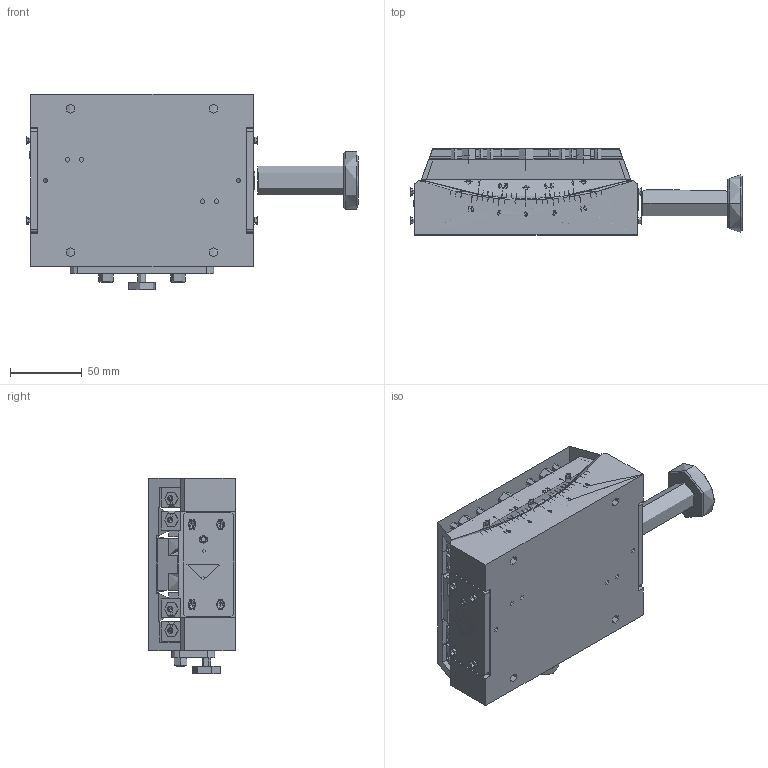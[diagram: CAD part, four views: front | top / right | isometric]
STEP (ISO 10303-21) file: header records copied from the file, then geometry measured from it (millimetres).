
FILE_DESCRIPTION (( 'STEP AP214' ), '1' );
FILE_NAME ('PT-SD311酗忒謫.STEP', '2022-09-11T07:24:51', ( '' ), ( '' ), 'SwSTEP 2.0', 'SolidWorks 2017', '' );
FILE_SCHEMA (( 'AUTOMOTIVE_DESIGN' ));
Length unit declared in the file: millimetre
Products named in the file (3): 忒謫; PT-SD311酗忒謫-菁釱; PT-SD311酗忒謫
Assembly tree (2 placements, depth 2):
  PT-SD311酗忒謫
    PT-SD311酗忒謫-菁釱
    忒謫
Bounding box: 231.3 x 60 x 136 mm (x, y, z)
Topology: 1 solids, 66 shells, 794 faces, 2300 edges, 1596 vertices
Faces by surface type: plane 501, cylinder 203, bspline 57, cone 33
Entity records: 44903 total; most frequent: CARTESIAN_POINT 25252, ORIENTED_EDGE 3934, DIRECTION 3483, EDGE_CURVE 2293, VERTEX_POINT 1597, VECTOR 1173, LINE 1173, AXIS2_PLACEMENT_3D 1155
